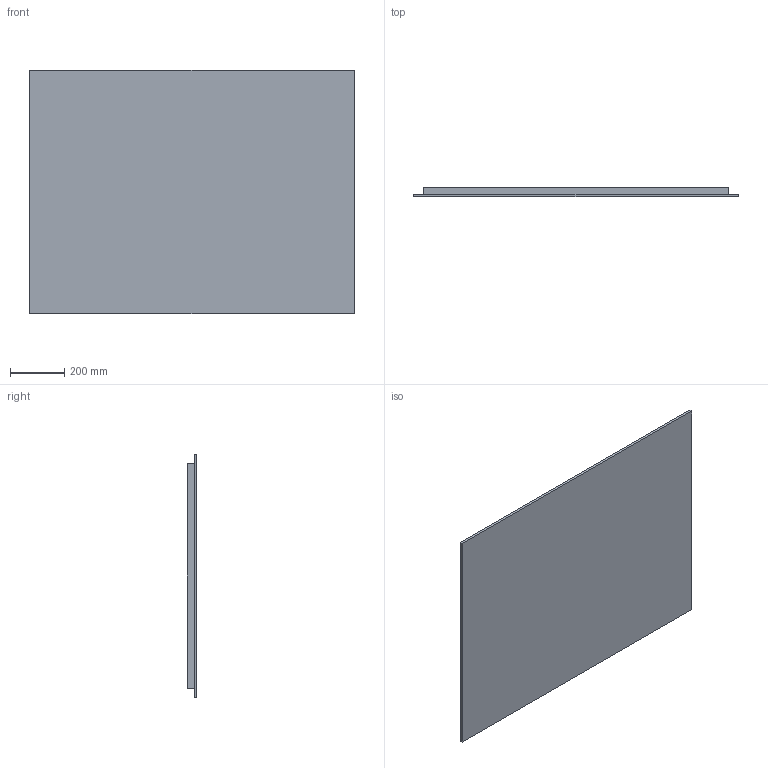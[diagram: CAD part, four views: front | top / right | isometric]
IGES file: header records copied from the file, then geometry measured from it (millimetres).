
Global section: file name: \\Archi-NAS\Comune\X GIOVANNI\SPECCHI\MIRR SLIM\MIRR SLIM_SQUARE.igs; native system: Rhinoceros ( Feb 23 2021 ); preprocessor: Trout Lake IGES 012 Feb 23 2021; date: 230608.081036; units: millimetre
Bounding box: 1200 x 35 x 900 mm (x, y, z)
Surface area: 4175520 mm2 (no closed solid volume)
Topology: 0 solids, 0 shells, 12 faces, 48 edges, 48 vertices
Faces by surface type: bspline 12
